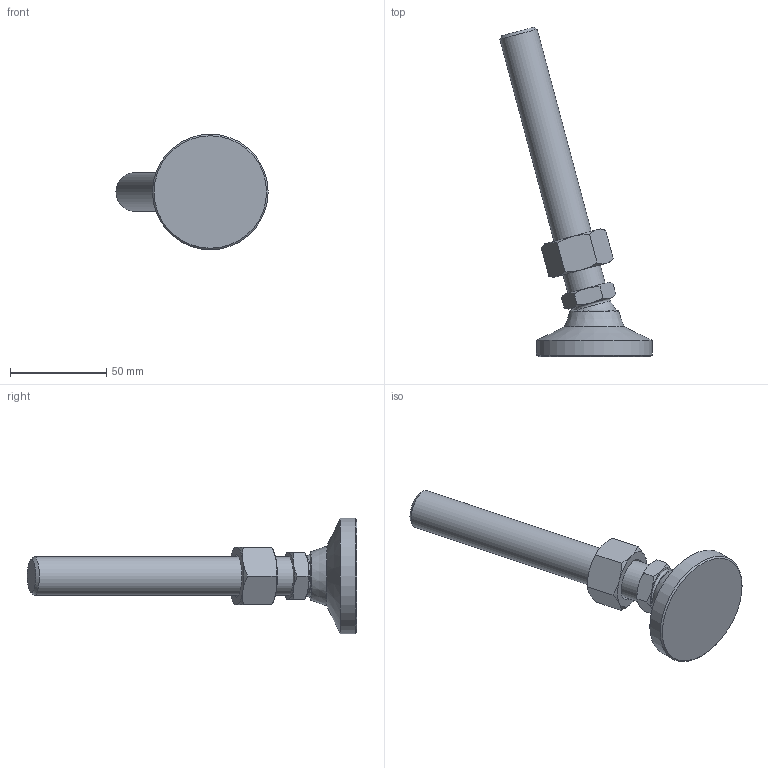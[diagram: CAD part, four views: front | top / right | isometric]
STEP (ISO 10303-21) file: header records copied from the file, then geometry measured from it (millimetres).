
FILE_DESCRIPTION( ( 'STEP AP214' ), ' ' );
FILE_NAME( 'O:/ganter_2015/teil_2/2_5/gn343_2/gn343_2_os/Levelling foot with threaded stud GN 343.2-60-M20-138-OS-(15).stp', '2015-10-26T09:08:52', ( '' ), ( '' ), ' ', 'PARTsolutions', ' ' );
FILE_SCHEMA( ( 'AUTOMOTIVE_DESIGN { 1 0 10303 214 1 1 1 1 }' ) );
Length unit declared in the file: millimetre
Products named in the file (4): Levelling foot with threaded stud GN 343.2-60-M20-138-OS-(15); _Levelling foot with threaded stud GN 343.2-60-M20-138-OS-(15)_foot; _Levelling foot with threaded stud GN 343.2-60-M20-138-OS-(15)_screw; _Stainless Steel-Levelling feet GN 343.2-60-M20-138-OS-(15)_nut
Assembly tree (3 placements, depth 2):
  Levelling foot with threaded stud GN 343.2-60-M20-138-OS-(15)
    _Levelling foot with threaded stud GN 343.2-60-M20-138-OS-(15)_foot
    _Levelling foot with threaded stud GN 343.2-60-M20-138-OS-(15)_screw
    _Stainless Steel-Levelling feet GN 343.2-60-M20-138-OS-(15)_nut
Bounding box: 78.99 x 170.97 x 60 mm (x, y, z)
Volume: 99187 mm3; surface area: 23694.6 mm2
Topology: 3 solids, 3 shells, 56 faces, 117 edges, 68 vertices
Faces by surface type: cone 30, plane 19, cylinder 3, torus 2, sphere 2
Full cylindrical faces by diameter (mm): 17.294 x1, 20 x1, 60 x1
Entity records: 2090 total; most frequent: CARTESIAN_POINT 522, DIRECTION 212, ORIENTED_EDGE 200, AXIS2_PLACEMENT_3D 100, EDGE_CURVE 100, EDGE_LOOP 72, VERTEX_POINT 66, FACE_OUTER_BOUND 61
